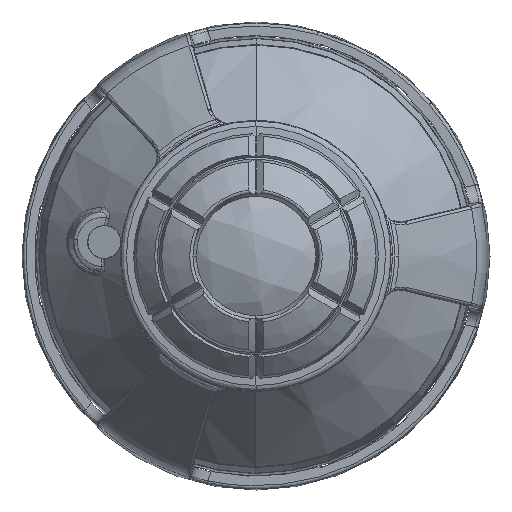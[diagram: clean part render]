
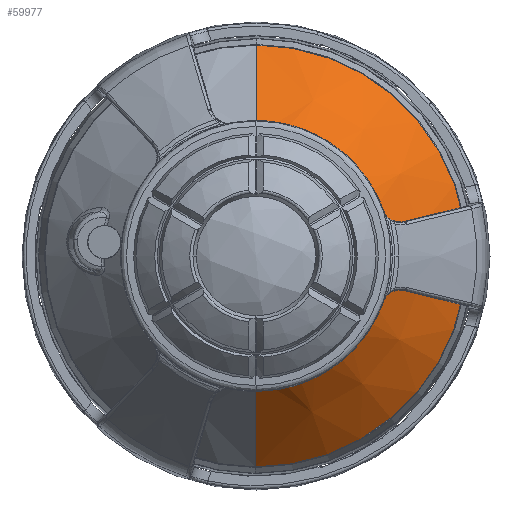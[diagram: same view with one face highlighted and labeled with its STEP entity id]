
A CAD part, front view. The second image highlights one B-rep face of the part: STEP entity #59977.
In plain terms, the highlighted conical face has half-angle 41.459 degrees and reference radius 17.75 mm.
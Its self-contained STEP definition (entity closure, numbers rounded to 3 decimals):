
#3153 = EDGE_CURVE ( 'NONE', #58886, #68432, #81864, .T. ) ;
#5816 = DIRECTION ( 'NONE',  ( 0., 0.749, 0.662 ) ) ;
#7010 = FACE_OUTER_BOUND ( 'NONE', #64639, .T. ) ;
#8537 = CARTESIAN_POINT ( 'NONE',  ( 0., -5.866, 0. ) ) ;
#9690 = AXIS2_PLACEMENT_3D ( 'NONE', #28203, #73417, #34693 ) ;
#9843 = AXIS2_PLACEMENT_3D ( 'NONE', #74380, #47572, #28883 ) ;
#14931 = AXIS2_PLACEMENT_3D ( 'NONE', #68686, #29945, #75150 ) ;
#15062 = DIRECTION ( 'NONE',  ( 1., 0., 0. ) ) ;
#17302 = ORIENTED_EDGE ( 'NONE', *, *, #17306, .T. ) ;
#17306 = EDGE_CURVE ( 'NONE', #49619, #36105, #76210, .T. ) ;
#20057 = CARTESIAN_POINT ( 'NONE',  ( 0., -14.421, -10.191 ) ) ;
#22863 = LINE ( 'NONE', #63993, #59319 ) ;
#23344 = LINE ( 'NONE', #56242, #72910 ) ;
#28203 = CARTESIAN_POINT ( 'NONE',  ( 0., -14.421, 0. ) ) ;
#28883 = DIRECTION ( 'NONE',  ( 1., 0., 0. ) ) ;
#29945 = DIRECTION ( 'NONE',  ( 0., 1., 0. ) ) ;
#30861 = CARTESIAN_POINT ( 'NONE',  ( 0., -14.421, 10.191 ) ) ;
#34693 = DIRECTION ( 'NONE',  ( 1., 0., 0. ) ) ;
#36105 = VERTEX_POINT ( 'NONE', #20057 ) ;
#38873 = CARTESIAN_POINT ( 'NONE',  ( 0., -5.866, 17.75 ) ) ;
#41370 = EDGE_CURVE ( 'NONE', #49619, #68432, #22863, .T. ) ;
#47572 = DIRECTION ( 'NONE',  ( 0., -1., 0. ) ) ;
#49619 = VERTEX_POINT ( 'NONE', #30861 ) ;
#52456 = CONICAL_SURFACE ( 'NONE', #14931, 17.75, 0.724 ) ;
#52887 = EDGE_CURVE ( 'NONE', #83241, #58886, #80179, .T. ) ;
#53152 = ORIENTED_EDGE ( 'NONE', *, *, #83611, .T. ) ;
#53719 = DIRECTION ( 'NONE',  ( 0., -1., 0. ) ) ;
#55080 = AXIS2_PLACEMENT_3D ( 'NONE', #8537, #53719, #15062 ) ;
#55419 = ORIENTED_EDGE ( 'NONE', *, *, #3153, .T. ) ;
#56242 = CARTESIAN_POINT ( 'NONE',  ( 0., -5.866, -17.75 ) ) ;
#58886 = VERTEX_POINT ( 'NONE', #81834 ) ;
#59319 = VECTOR ( 'NONE', #5816, 1000. ) ;
#59977 = ADVANCED_FACE ( 'NONE', ( #7010 ), #52456, .T. ) ;
#62291 = ORIENTED_EDGE ( 'NONE', *, *, #52887, .T. ) ;
#63993 = CARTESIAN_POINT ( 'NONE',  ( 0., -5.866, 17.75 ) ) ;
#64639 = EDGE_LOOP ( 'NONE', ( #17302, #53152, #62291, #55419, #72334 ) ) ;
#68432 = VERTEX_POINT ( 'NONE', #38873 ) ;
#68686 = CARTESIAN_POINT ( 'NONE',  ( 0., -5.866, 0. ) ) ;
#69241 = DIRECTION ( 'NONE',  ( 0., 0.749, -0.662 ) ) ;
#72334 = ORIENTED_EDGE ( 'NONE', *, *, #41370, .F. ) ;
#72910 = VECTOR ( 'NONE', #69241, 1000. ) ;
#73417 = DIRECTION ( 'NONE',  ( 0., 1., 0. ) ) ;
#74380 = CARTESIAN_POINT ( 'NONE',  ( 0., -5.866, 0. ) ) ;
#75150 = DIRECTION ( 'NONE',  ( 0., 0., 1. ) ) ;
#76210 = CIRCLE ( 'NONE', #9690, 10.191 ) ;
#80179 = CIRCLE ( 'NONE', #55080, 17.75 ) ;
#81834 = CARTESIAN_POINT ( 'NONE',  ( 17.75, -5.866, 0. ) ) ;
#81864 = CIRCLE ( 'NONE', #9843, 17.75 ) ;
#83241 = VERTEX_POINT ( 'NONE', #83402 ) ;
#83402 = CARTESIAN_POINT ( 'NONE',  ( 0., -5.866, -17.75 ) ) ;
#83611 = EDGE_CURVE ( 'NONE', #36105, #83241, #23344, .T. ) ;
